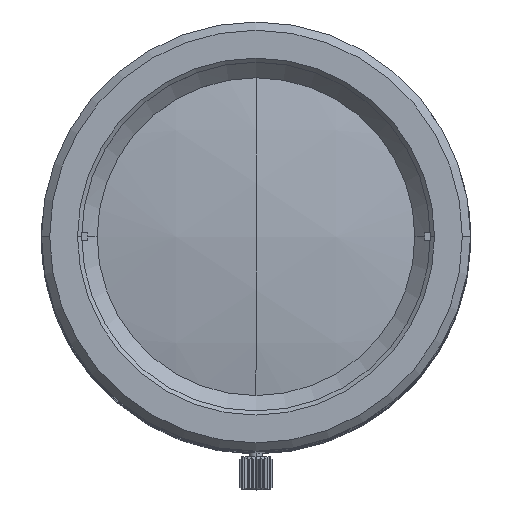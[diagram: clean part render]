
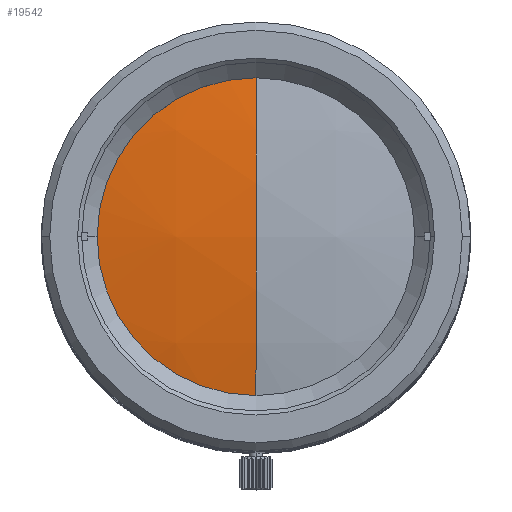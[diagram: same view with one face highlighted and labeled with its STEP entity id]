
A CAD part, top view. The second image highlights one B-rep face of the part: STEP entity #19542.
In plain terms, the highlighted spherical face has radius 103.3 mm.
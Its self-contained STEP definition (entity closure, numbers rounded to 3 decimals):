
#1242 = AXIS2_PLACEMENT_3D ( 'NONE', #3523, #21030, #8405 ) ;
#1655 = SPHERICAL_SURFACE ( 'NONE', #16205, 103.3 ) ;
#1850 = VERTEX_POINT ( 'NONE', #12880 ) ;
#2603 = CIRCLE ( 'NONE', #1242, 103.3 ) ;
#2962 = EDGE_CURVE ( 'NONE', #1850, #27470, #2603, .T. ) ;
#3266 = DIRECTION ( 'NONE',  ( -1., 0., 0. ) ) ;
#3523 = CARTESIAN_POINT ( 'NONE',  ( 0., 0., -12.19 ) ) ;
#3573 = CARTESIAN_POINT ( 'NONE',  ( 0., 0., 89.282 ) ) ;
#3698 = CIRCLE ( 'NONE', #11035, 103.3 ) ;
#3797 = VERTEX_POINT ( 'NONE', #14937 ) ;
#4057 = DIRECTION ( 'NONE',  ( -1., 0., 0. ) ) ;
#4257 = AXIS2_PLACEMENT_3D ( 'NONE', #3573, #20811, #16351 ) ;
#5322 = EDGE_CURVE ( 'NONE', #3797, #27470, #3698, .T. ) ;
#6509 = CIRCLE ( 'NONE', #18428, 19.347 ) ;
#7211 = ORIENTED_EDGE ( 'NONE', *, *, #8783, .T. ) ;
#8405 = DIRECTION ( 'NONE',  ( 0., 0., -1. ) ) ;
#8783 = EDGE_CURVE ( 'NONE', #24636, #3797, #21218, .T. ) ;
#8879 = FACE_OUTER_BOUND ( 'NONE', #22376, .T. ) ;
#9191 = CARTESIAN_POINT ( 'NONE',  ( 0., 0., 91.11 ) ) ;
#11035 = AXIS2_PLACEMENT_3D ( 'NONE', #17923, #20649, #24820 ) ;
#12031 = DIRECTION ( 'NONE',  ( 0., 1., 0. ) ) ;
#12412 = ORIENTED_EDGE ( 'NONE', *, *, #16400, .T. ) ;
#12550 = DIRECTION ( 'NONE',  ( 0., 0., 1. ) ) ;
#12880 = CARTESIAN_POINT ( 'NONE',  ( 0., 19.347, 89.282 ) ) ;
#14937 = CARTESIAN_POINT ( 'NONE',  ( 0., -19.347, 89.282 ) ) ;
#16026 = CARTESIAN_POINT ( 'NONE',  ( 0., 0., -12.19 ) ) ;
#16205 = AXIS2_PLACEMENT_3D ( 'NONE', #16026, #3266, #12031 ) ;
#16351 = DIRECTION ( 'NONE',  ( -1., 0., 0. ) ) ;
#16400 = EDGE_CURVE ( 'NONE', #1850, #24636, #6509, .T. ) ;
#16817 = CARTESIAN_POINT ( 'NONE',  ( -19.347, 0., 89.282 ) ) ;
#17923 = CARTESIAN_POINT ( 'NONE',  ( 0., 0., -12.19 ) ) ;
#18428 = AXIS2_PLACEMENT_3D ( 'NONE', #21718, #12550, #4057 ) ;
#19542 = ADVANCED_FACE ( 'NONE', ( #8879 ), #1655, .T. ) ;
#20649 = DIRECTION ( 'NONE',  ( -1., 0., 0. ) ) ;
#20811 = DIRECTION ( 'NONE',  ( 0., 0., 1. ) ) ;
#21030 = DIRECTION ( 'NONE',  ( 1., 0., 0. ) ) ;
#21218 = CIRCLE ( 'NONE', #4257, 19.347 ) ;
#21718 = CARTESIAN_POINT ( 'NONE',  ( 0., 0., 89.282 ) ) ;
#22376 = EDGE_LOOP ( 'NONE', ( #12412, #7211, #25321, #27922 ) ) ;
#24636 = VERTEX_POINT ( 'NONE', #16817 ) ;
#24820 = DIRECTION ( 'NONE',  ( 0., -1., 0. ) ) ;
#25321 = ORIENTED_EDGE ( 'NONE', *, *, #5322, .T. ) ;
#27470 = VERTEX_POINT ( 'NONE', #9191 ) ;
#27922 = ORIENTED_EDGE ( 'NONE', *, *, #2962, .F. ) ;
